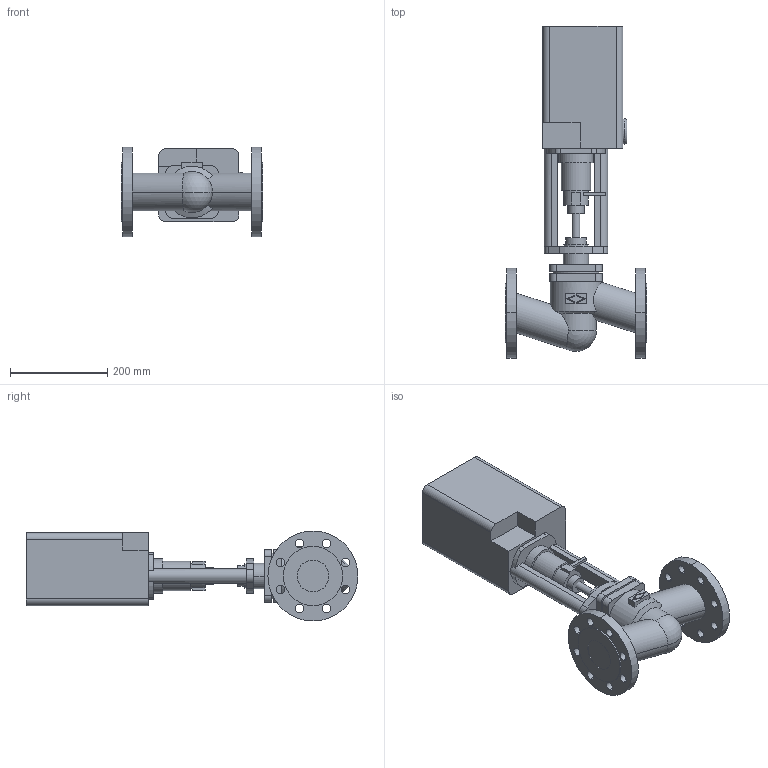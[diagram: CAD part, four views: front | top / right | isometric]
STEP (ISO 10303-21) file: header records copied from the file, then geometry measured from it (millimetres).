
FILE_DESCRIPTION(('OneSpaceDesigner STEP Export'),'2;1');
FILE_NAME('c000001180.stp','2005-02-16T12:07:42',(''),(''),'OneSpace Designer STEP processor (Jan. 2003) for AP203(Solid Model)','OneSpace Designer 12.01D 09-Jul-2004 (C) CoCreate Software GmbH','');
FILE_SCHEMA(('CONFIG_CONTROL_DESIGN'));
Length unit declared in the file: millimetre
Products named in the file (2): 1; 2
Bounding box: 290 x 682.5 x 185 mm (x, y, z)
Volume: 10059748.3 mm3; surface area: 538071.3 mm2
Topology: 2 solids, 2 shells, 190 faces, 487 edges, 322 vertices
Faces by surface type: cylinder 98, plane 86, cone 2, sphere 2, torus 2
Entity records: 5776 total; most frequent: CARTESIAN_POINT 1186, ORIENTED_EDGE 970, DIRECTION 842, EDGE_CURVE 485, VERTEX_POINT 322, AXIS2_PLACEMENT_3D 293, VECTOR 256, LINE 256
